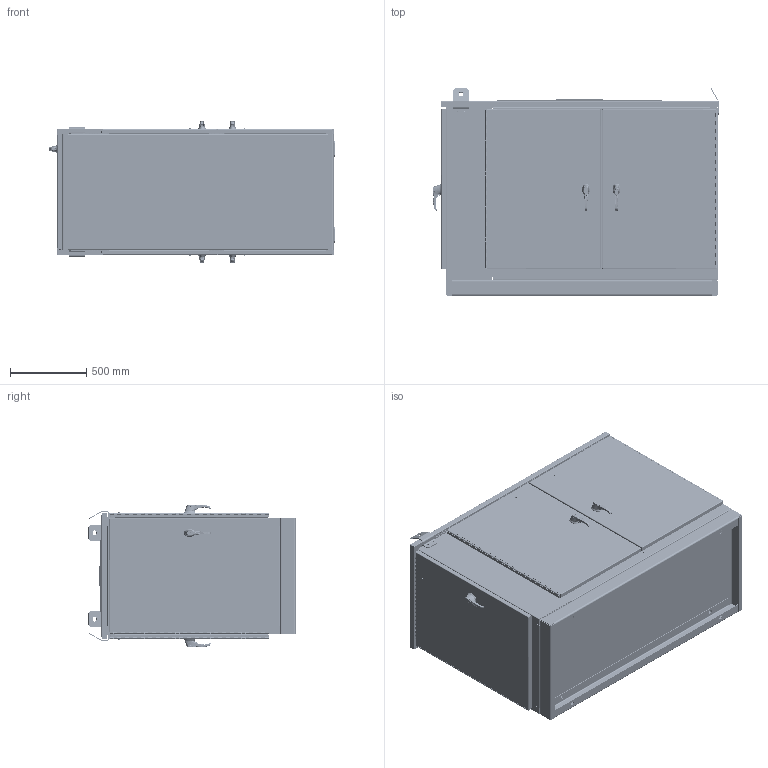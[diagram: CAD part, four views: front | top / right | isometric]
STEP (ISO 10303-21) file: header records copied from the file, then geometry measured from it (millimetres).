
FILE_DESCRIPTION (( 'STEP AP203' ), '1' );
FILE_NAME ('t507030pm5.STEP', '2011-04-19T15:06:42', ( 'Hoffman User' ), ( 'Hoffman Enclosures' ), 'SwSTEP 2.0', 'SolidWorks 2010', '' );
FILE_SCHEMA (( 'CONFIG_CONTROL_DESIGN' ));
Products named in the file (82): t507030pm5; 89067526_89067526; 89067522_89067522; 89067515_89067515; 89067520_89067520; 89067513_89067513; 89067521_89067521; 89067514_89067514; 99404051_99404051; 89067523; 89067516; 89067524; 89067517; 87578885; 87561705_87561705; 99415470_99415470; 89067518; 89067525; 89067519; 87578939; 87578943; 87578941; 89068336; 89067538; 89067536; 89067537; 89068157; 89068156; 89068155; 89067691_89067687; 89067690_89067686; 89067689_89067689; 89067692_50 INCH FIP; 22131045; 87578937_87578937; 87948515_87933843; 87419080_87933944; 87929874_87929873; 89049937_89049937; 89049936_89049936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
Assembly tree (286 placements, depth 5):
  t507030pm5
    89049937_89049937  x3
      27115004
      87560001_Closed
        89048714  x2
        89048717
        89048722
          89048721
          89048720
        89048719
        89048718
        89048716
      26123007_26123007 
      99411366_93825A140
      26118002_26118002
      26123006
      87560090
      87558344_Installed
      26274010_26274010
        30101003  x2
        27115001
        26273010_26273010
        22318002
      99401452
      22108007
      89049936_89049936
        99404049_99404049  x4
        27301003  x2
        87920576_87920576
      89049938_50 INCH FIP
    87920594_87920594  x4
    87793415_87793415  x5
    87560141  x3
    87578937_87578937  x5
      87948515_87933843
      87419080_87933944
    87929874_87929873  x5
    87920588_87920588  x5
    87578875  x4
    89050557  x2
      89049951
      99404050_99404050
    22131045  x5
    87578931  x2
    89067691_89067687  x2
      26123007_26123007 
      27115004
      89067690_89067686
        99404049_99404049  x4
        89067689_89067689
        27301003  x2
      26118002_26118002
      26274010_26274010
        30101003  x2
        27115001
        26273010_26273010
        22318002
      99411366_93825A140
      87560090
      99401452
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Bounding box: 1867.82 x 1356.4 x 928.03 mm (x, y, z)
Volume: 53063202.7 mm3; surface area: 34247602.6 mm2
Topology: 465 solids, 465 shells, 43195 faces, 119265 edges, 77655 vertices
Faces by surface type: plane 18859, cylinder 12215, bspline 6437, cone 4314, torus 1210, sphere 160
Entity records: 438873 total; most frequent: CARTESIAN_POINT 167718, ORIENTED_EDGE 62336, DIRECTION 40069, EDGE_CURVE 31168, VERTEX_POINT 20429, EDGE_LOOP 16945, VECTOR 14869, LINE 14869
